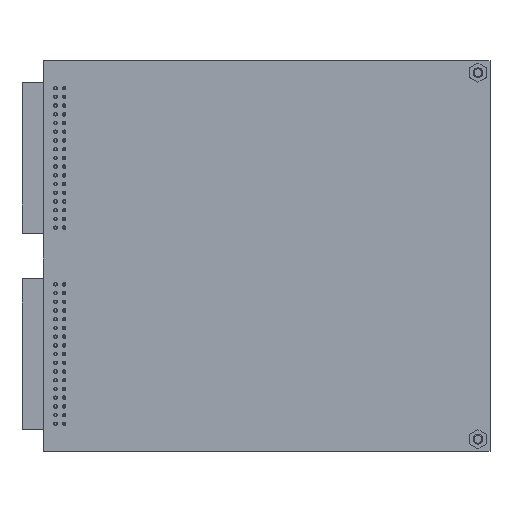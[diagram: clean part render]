
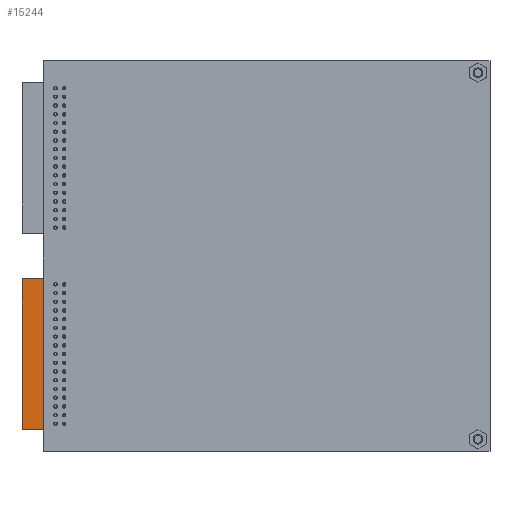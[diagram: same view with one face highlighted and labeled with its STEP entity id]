
A CAD part, top view. The second image highlights one B-rep face of the part: STEP entity #15244.
In plain terms, the highlighted planar face has unit normal (0, 0, 1) as drawn and (0, 1, 0) by its records, which use the part's own axes.
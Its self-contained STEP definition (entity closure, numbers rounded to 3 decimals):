
#5490=DIRECTION('',(0.,0.,1.));
#5491=VECTOR('',#5490,8.4);
#5492=CARTESIAN_POINT('',(-21.89,6.,-4.2));
#5493=LINE('',#5492,#5491);
#5494=DIRECTION('',(-1.,0.,0.));
#5495=VECTOR('',#5494,43.78);
#5496=CARTESIAN_POINT('',(21.89,6.,-4.2));
#5497=LINE('',#5496,#5495);
#5498=DIRECTION('',(0.,0.,-1.));
#5499=VECTOR('',#5498,8.4);
#5500=CARTESIAN_POINT('',(21.89,6.,4.2));
#5501=LINE('',#5500,#5499);
#5502=DIRECTION('',(1.,0.,0.));
#5503=VECTOR('',#5502,43.78);
#5504=CARTESIAN_POINT('',(-21.89,6.,4.2));
#5505=LINE('',#5504,#5503);
#12484=CARTESIAN_POINT('',(21.89,6.,-4.2));
#12485=VERTEX_POINT('',#12484);
#12486=CARTESIAN_POINT('',(-21.89,6.,-4.2));
#12487=VERTEX_POINT('',#12486);
#13314=CARTESIAN_POINT('',(21.89,6.,4.2));
#13315=VERTEX_POINT('',#13314);
#13320=CARTESIAN_POINT('',(-21.89,6.,4.2));
#13321=VERTEX_POINT('',#13320);
#15232=CARTESIAN_POINT('',(0.,6.,0.));
#15233=DIRECTION('',(0.,1.,0.));
#15234=DIRECTION('',(1.,0.,0.));
#15235=AXIS2_PLACEMENT_3D('',#15232,#15233,#15234);
#15236=PLANE('',#15235);
#15237=ORIENTED_EDGE('',*,*,#15209,.F.);
#15238=ORIENTED_EDGE('',*,*,#14760,.F.);
#15239=ORIENTED_EDGE('',*,*,#15175,.F.);
#15241=ORIENTED_EDGE('',*,*,#15240,.F.);
#15242=EDGE_LOOP('',(#15237,#15238,#15239,#15241));
#15243=FACE_OUTER_BOUND('',#15242,.F.);
#15244=ADVANCED_FACE('',(#15243),#15236,.T.);
#14760=EDGE_CURVE('',#12485,#12487,#5497,.T.);
#15175=EDGE_CURVE('',#13315,#12485,#5501,.T.);
#15209=EDGE_CURVE('',#12487,#13321,#5493,.T.);
#15240=EDGE_CURVE('',#13321,#13315,#5505,.T.);
